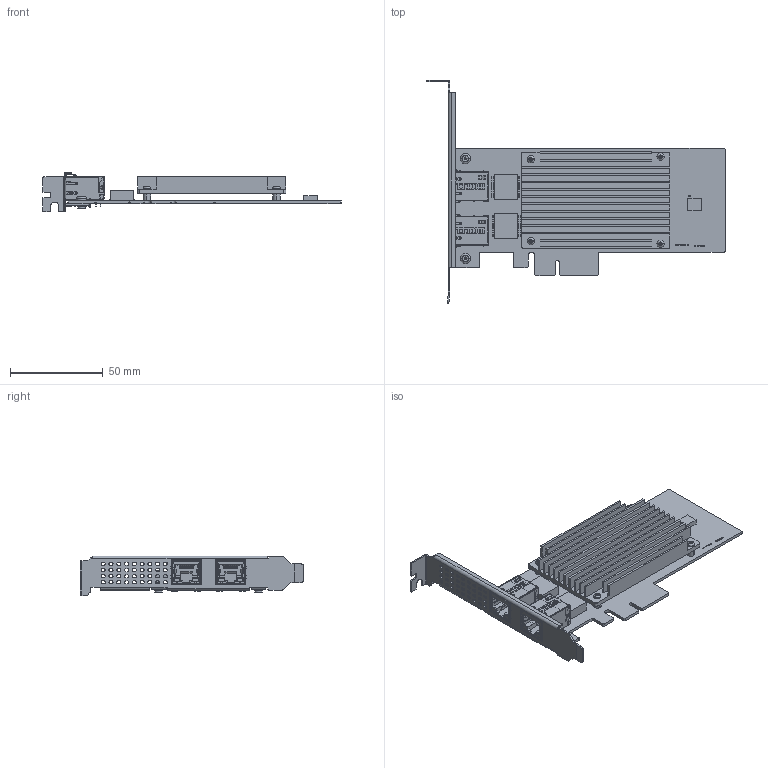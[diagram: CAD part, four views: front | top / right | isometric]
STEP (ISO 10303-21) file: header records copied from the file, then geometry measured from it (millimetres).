
FILE_DESCRIPTION((''),'2;1');
FILE_NAME('MV-20378REV10-202304111919_ASM','2023-06-09T11:09:29',('qinyangfan'),(''),'CREO PARAMETRIC BY PTC INC, 2020044','CREO PARAMETRIC BY PTC INC, 2020044','');
FILE_SCHEMA(('CONFIG_CONTROL_DESIGN'));
Products named in the file (9): MV-20378REV10-202304111919; 1055; 100300201; 910900984_ASM; 910601599_ASM; 101306305; 100201285; 100500107; MV-20378REV10-202304111919_ASM
Assembly tree (12 placements, depth 2):
  MV-20378REV10-202304111919_ASM
    MV-20378REV10-202304111919
    1055  x2
    100300201
    910900984_ASM
    910601599_ASM  x2
    101306305  x2
    100201285
    100500107  x2
Bounding box: 160.91 x 120.82 x 21.59 mm (x, y, z)
Volume: 36096.6 mm3; surface area: 63987.3 mm2
Topology: 43 solids, 65 shells, 6642 faces, 18469 edges, 12080 vertices
Faces by surface type: plane 4699, cylinder 1665, bspline 218, cone 36, torus 24
Entity records: 123789 total; most frequent: CARTESIAN_POINT 27147, ORIENTED_EDGE 20523, DIRECTION 19246, EDGE_CURVE 10290, VECTOR 8028, LINE 8028, VERTEX_POINT 6638, AXIS2_PLACEMENT_3D 5609
